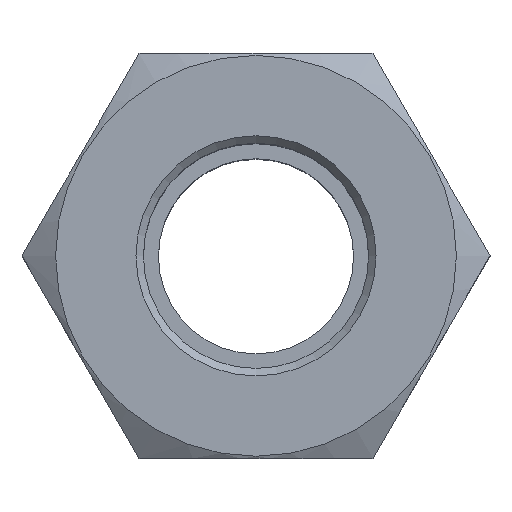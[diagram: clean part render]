
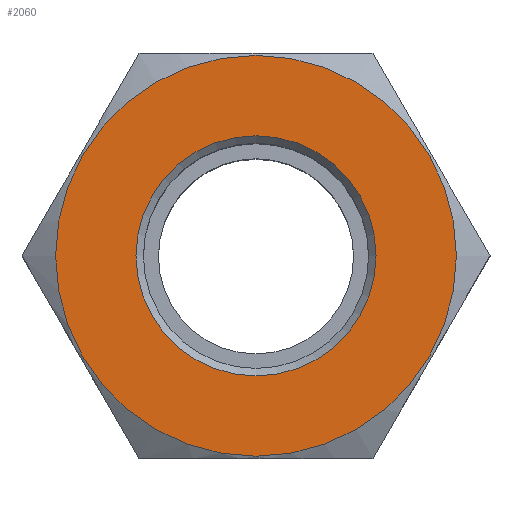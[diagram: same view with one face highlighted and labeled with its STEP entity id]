
A CAD part, top view. The second image highlights one B-rep face of the part: STEP entity #2060.
In plain terms, the highlighted planar face has unit normal (0, 0, 1).
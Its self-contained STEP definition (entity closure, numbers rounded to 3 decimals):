
#2060=ADVANCED_FACE('', (#2070,#2080), #2090, .T.);
#6590=AXIS2_PLACEMENT_3D('Ax2Pl3d', #6600, #6610, #6620);
#6670=AXIS2_PLACEMENT_3D('Ax2Pl3d', #6680, #6690, #6700);
#6750=AXIS2_PLACEMENT_3D('Ax2Pl3d', #6760, #6770, #6780);
#6600=CARTESIAN_POINT('HicPkt', (23.274,17.806,52.572));
#9960=CARTESIAN_POINT('', (9.924,17.806,52.572));
#6680=CARTESIAN_POINT('HicPkt', (23.274,17.806,52.572))
;
#9970=CARTESIAN_POINT('', (15.274,17.806,52.572));
#6760=CARTESIAN_POINT('HicPkt', (23.274,4.456,52.572)
);
#10460=CIRCLE('Circle', #6590, 13.35);
#10470=CIRCLE('Circle', #6670, 8.);
#6610=DIRECTION('Axis', (0.,0.,-1.));
#6620=DIRECTION('RefDirection', (-1.,-0.,0.));
#6690=DIRECTION('Axis', (0.,0.,1.));
#6700=DIRECTION('RefDirection', (1.,0.,-0.));
#6770=DIRECTION('Axis', (0.,0.,1.));
#6780=DIRECTION('RefDirection', (1.,0.,-0.));
#15560=EDGE_CURVE('', #15570, #15570, #10460, .T.);
#15580=EDGE_CURVE('', #15590, #15590, #10470, .T.);
#18300=EDGE_LOOP('Edge_loop', (#18310));
#18320=EDGE_LOOP('Edge_loop', (#18330));
#2080=FACE_BOUND('', #18320, .T.);
#2070=FACE_OUTER_BOUND('Face_outer_bound', #18300, .T.);
#18310=ORIENTED_EDGE('', *, *, #15560, .F.);
#18330=ORIENTED_EDGE('', *, *, #15580, .F.);
#2090=PLANE('Plane', #6750);
#15570=VERTEX_POINT('', #9960);
#15590=VERTEX_POINT('', #9970);
